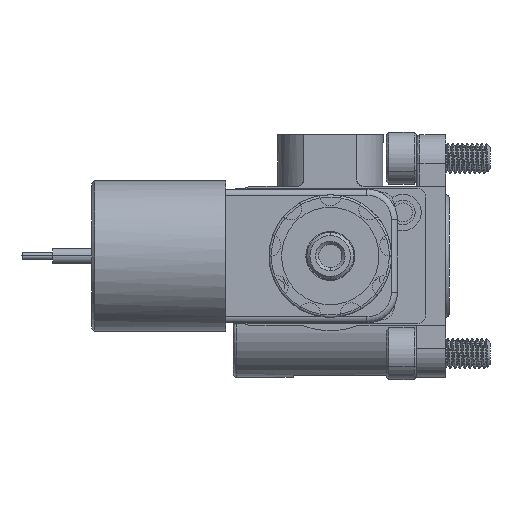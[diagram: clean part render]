
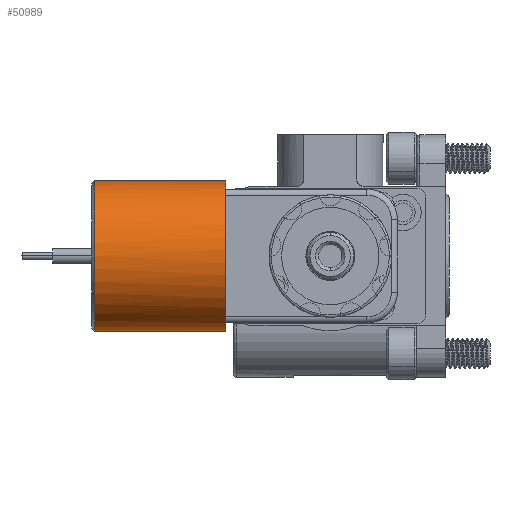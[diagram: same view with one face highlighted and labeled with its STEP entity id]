
A CAD part, left-side view. The second image highlights one B-rep face of the part: STEP entity #50989.
In plain terms, the highlighted cylindrical face has radius 12.3 mm (diameter 24.6 mm), a partial arc.
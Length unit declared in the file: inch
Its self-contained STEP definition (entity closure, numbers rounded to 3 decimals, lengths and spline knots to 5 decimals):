
#128 = CIRCLE ( 'NONE', #51821, 0.48425 ) ;
#889 = AXIS2_PLACEMENT_3D ( 'NONE', #77499, #17520, #68787 ) ;
#3861 = AXIS2_PLACEMENT_3D ( 'NONE', #49063, #56040, #35918 ) ;
#6234 = DIRECTION ( 'NONE',  ( 0., 1., 0. ) ) ;
#6513 = CIRCLE ( 'NONE', #889, 0.48425 ) ;
#7089 = LINE ( 'NONE', #33402, #26103 ) ;
#13025 = VERTEX_POINT ( 'NONE', #79481 ) ;
#15040 = EDGE_CURVE ( 'NONE', #13025, #16733, #81640, .T. ) ;
#16733 = VERTEX_POINT ( 'NONE', #22264 ) ;
#17002 = DIRECTION ( 'NONE',  ( 0., 1., 0. ) ) ;
#17520 = DIRECTION ( 'NONE',  ( 0., 1., 0. ) ) ;
#21697 = CARTESIAN_POINT ( 'NONE',  ( -1.93646, -2.02004, -2.13442 ) ) ;
#22264 = CARTESIAN_POINT ( 'NONE',  ( -1.93646, -1.17358, -2.13442 ) ) ;
#22290 = DIRECTION ( 'NONE',  ( 0., 0., 1. ) ) ;
#23725 = EDGE_CURVE ( 'NONE', #66290, #16733, #75369, .T. ) ;
#25238 = ORIENTED_EDGE ( 'NONE', *, *, #77280, .T. ) ;
#25719 = CARTESIAN_POINT ( 'NONE',  ( -2.15703, -2.02004, -1.21907 ) ) ;
#26103 = VECTOR ( 'NONE', #6234, 39.37008 ) ;
#29759 = VECTOR ( 'NONE', #48408, 39.37008 ) ;
#30114 = ORIENTED_EDGE ( 'NONE', *, *, #33932, .T. ) ;
#32351 = EDGE_CURVE ( 'NONE', #86295, #66290, #7089, .T. ) ;
#32836 = DIRECTION ( 'NONE',  ( 0., 0., 1. ) ) ;
#33402 = CARTESIAN_POINT ( 'NONE',  ( -1.93646, -2.02004, -1.16592 ) ) ;
#33932 = EDGE_CURVE ( 'NONE', #13025, #38809, #40299, .T. ) ;
#35112 = AXIS2_PLACEMENT_3D ( 'NONE', #49431, #17002, #22290 ) ;
#35245 = ORIENTED_EDGE ( 'NONE', *, *, #60742, .T. ) ;
#35918 = DIRECTION ( 'NONE',  ( 0., 0., 1. ) ) ;
#38809 = VERTEX_POINT ( 'NONE', #56526 ) ;
#40299 = CIRCLE ( 'NONE', #3861, 0.48425 ) ;
#40972 = VERTEX_POINT ( 'NONE', #25719 ) ;
#42852 = CARTESIAN_POINT ( 'NONE',  ( -1.93646, -1.17358, -1.16592 ) ) ;
#45538 = DIRECTION ( 'NONE',  ( 0., 1., 0. ) ) ;
#47428 = DIRECTION ( 'NONE',  ( 0., 0., 1. ) ) ;
#48408 = DIRECTION ( 'NONE',  ( 0., 1., 0. ) ) ;
#48843 = ORIENTED_EDGE ( 'NONE', *, *, #15040, .F. ) ;
#49063 = CARTESIAN_POINT ( 'NONE',  ( -1.93646, -2.02004, -1.65017 ) ) ;
#49431 = CARTESIAN_POINT ( 'NONE',  ( -1.93646, -2.02004, -1.65017 ) ) ;
#50261 = CYLINDRICAL_SURFACE ( 'NONE', #35112, 0.48425 ) ;
#50989 = ADVANCED_FACE ( 'NONE', ( #82226 ), #50261, .T. ) ;
#51668 = ORIENTED_EDGE ( 'NONE', *, *, #32351, .T. ) ;
#51821 = AXIS2_PLACEMENT_3D ( 'NONE', #85319, #45538, #32836 ) ;
#56040 = DIRECTION ( 'NONE',  ( 0., 1., 0. ) ) ;
#56526 = CARTESIAN_POINT ( 'NONE',  ( -2.15703, -2.02004, -2.08127 ) ) ;
#57814 = EDGE_LOOP ( 'NONE', ( #48843, #30114, #25238, #35245, #51668, #79897 ) ) ;
#60742 = EDGE_CURVE ( 'NONE', #40972, #86295, #6513, .T. ) ;
#61403 = DIRECTION ( 'NONE',  ( 0., -1., 0. ) ) ;
#66290 = VERTEX_POINT ( 'NONE', #42852 ) ;
#68787 = DIRECTION ( 'NONE',  ( 0., 0., 1. ) ) ;
#75293 = CARTESIAN_POINT ( 'NONE',  ( -1.93646, -2.02004, -1.16592 ) ) ;
#75369 = CIRCLE ( 'NONE', #85174, 0.48425 ) ;
#77280 = EDGE_CURVE ( 'NONE', #38809, #40972, #128, .T. ) ;
#77499 = CARTESIAN_POINT ( 'NONE',  ( -1.93646, -2.02004, -1.65017 ) ) ;
#79481 = CARTESIAN_POINT ( 'NONE',  ( -1.93646, -2.02004, -2.13442 ) ) ;
#79897 = ORIENTED_EDGE ( 'NONE', *, *, #23725, .T. ) ;
#81523 = CARTESIAN_POINT ( 'NONE',  ( -1.93646, -1.17358, -1.65017 ) ) ;
#81640 = LINE ( 'NONE', #21697, #29759 ) ;
#82226 = FACE_OUTER_BOUND ( 'NONE', #57814, .T. ) ;
#85174 = AXIS2_PLACEMENT_3D ( 'NONE', #81523, #61403, #47428 ) ;
#85319 = CARTESIAN_POINT ( 'NONE',  ( -1.93646, -2.02004, -1.65017 ) ) ;
#86295 = VERTEX_POINT ( 'NONE', #75293 ) ;
